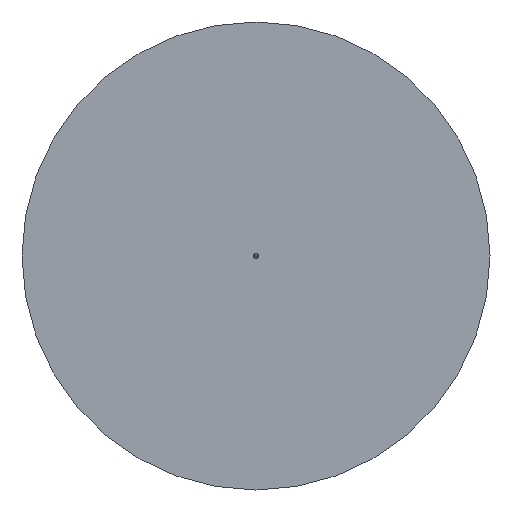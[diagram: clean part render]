
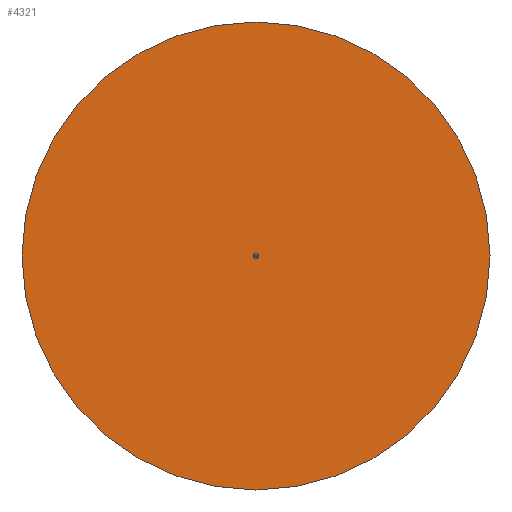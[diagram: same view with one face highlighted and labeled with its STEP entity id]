
A CAD part, front view. The second image highlights one B-rep face of the part: STEP entity #4321.
In plain terms, the highlighted planar face has unit normal (0, -1, 0).
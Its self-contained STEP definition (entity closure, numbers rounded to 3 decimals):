
#3163=CARTESIAN_POINT('',(0.7,-21.5,0.));
#3164=VERTEX_POINT('',#3163);
#3180=CARTESIAN_POINT('',(-0.7,-21.5,0.));
#3181=VERTEX_POINT('',#3180);
#3188=CARTESIAN_POINT('',(0.0,-21.5,0.));
#3189=DIRECTION('',(0.0,-1.0,0.0));
#3190=DIRECTION('',(1.0,0.0,0.0));
#3191=AXIS2_PLACEMENT_3D('',#3188,#3189,#3190);
#3192=CIRCLE('',#3191,0.7);
#3193=EDGE_CURVE('',#3181,#3164,#3192,.T.);
#3205=CARTESIAN_POINT('',(70.,-21.5,0.));
#3206=VERTEX_POINT('',#3205);
#3222=CARTESIAN_POINT('',(-70.,-21.5,0.));
#3223=VERTEX_POINT('',#3222);
#3230=CARTESIAN_POINT('',(0.0,-21.5,0.));
#3231=DIRECTION('',(0.0,-1.0,0.0));
#3232=DIRECTION('',(1.0,0.0,0.0));
#3233=AXIS2_PLACEMENT_3D('',#3230,#3231,#3232);
#3234=CIRCLE('',#3233,70.);
#3235=EDGE_CURVE('',#3206,#3223,#3234,.T.);
#4290=CARTESIAN_POINT('',(0.0,-21.5,0.));
#4291=DIRECTION('',(0.0,-1.0,0.0));
#4292=DIRECTION('',(1.0,0.0,0.0));
#4293=AXIS2_PLACEMENT_3D('',#4290,#4291,#4292);
#4294=CIRCLE('',#4293,70.);
#4295=EDGE_CURVE('',#3223,#3206,#4294,.T.);
#4302=CARTESIAN_POINT('',(35.35,-21.5,0.));
#4303=DIRECTION('',(0.0,-1.0,0.0));
#4304=DIRECTION('',(0.0,0.0,-1.0));
#4305=AXIS2_PLACEMENT_3D('',#4302,#4303,#4304);
#4306=PLANE('',#4305);
#4307=ORIENTED_EDGE('',*,*,#3235,.T.);
#4308=ORIENTED_EDGE('',*,*,#4295,.T.);
#4309=EDGE_LOOP('',(#4307,#4308));
#4310=FACE_OUTER_BOUND('',#4309,.T.);
#4311=CARTESIAN_POINT('',(0.0,-21.5,0.));
#4312=DIRECTION('',(0.0,-1.0,0.0));
#4313=DIRECTION('',(1.0,0.0,0.0));
#4314=AXIS2_PLACEMENT_3D('',#4311,#4312,#4313);
#4315=CIRCLE('',#4314,0.7);
#4316=EDGE_CURVE('',#3164,#3181,#4315,.T.);
#4317=ORIENTED_EDGE('',*,*,#4316,.F.);
#4318=ORIENTED_EDGE('',*,*,#3193,.F.);
#4319=EDGE_LOOP('',(#4317,#4318));
#4320=FACE_BOUND('',#4319,.T.);
#4321=ADVANCED_FACE('',(#4310,#4320),#4306,.T.);
